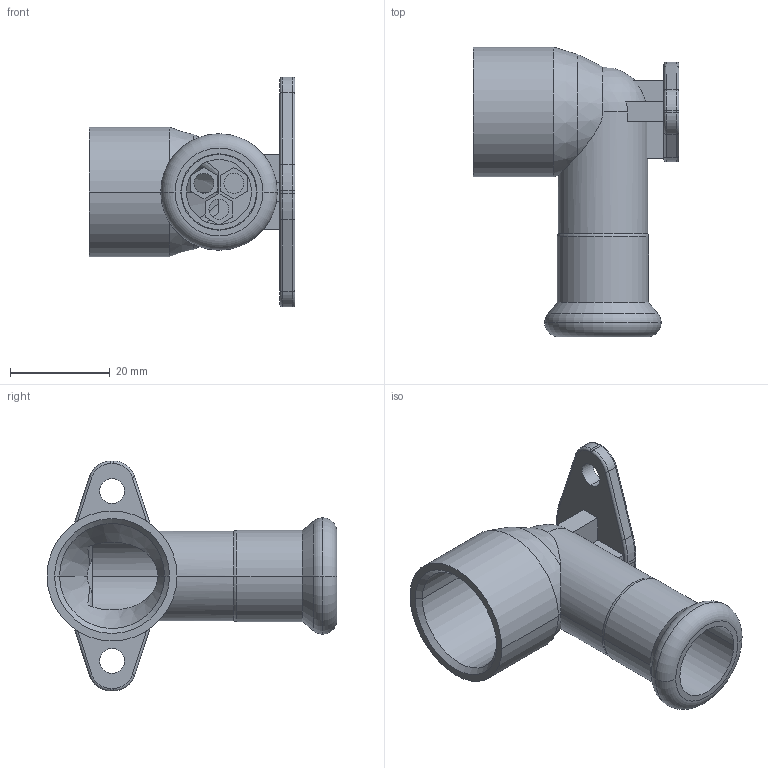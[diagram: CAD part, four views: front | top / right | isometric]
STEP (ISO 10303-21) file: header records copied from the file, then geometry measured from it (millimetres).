
FILE_DESCRIPTION(('OneSpaceDesigner STEP Export'),'2;1');
FILE_NAME('R2716 15xRp1-2.stp','2010-06-10T 9:49:53',(''),(''),'OneSpace Designer STEP processor for AP214 (Solid Model)','OneSpace Modeling 15.00A 14-Mar-2007 (C) CoCreate Software GmbH','');
FILE_SCHEMA(('AUTOMOTIVE_DESIGN { 1 0 10303 214 1 1 1 1 }'));
Length unit declared in the file: millimetre
Products named in the file (2): R2716_15xRp1-2
Assembly tree (1 placements, depth 2):
  R2716_15xRp1-2
    R2716_15xRp1-2
Bounding box: 41.2 x 58 x 46 mm (x, y, z)
Volume: 11281.8 mm3; surface area: 10654 mm2
Topology: 1 solids, 1 shells, 144 faces, 355 edges, 219 vertices
Faces by surface type: plane 56, cylinder 53, torus 22, cone 10, bspline 2, sphere 1
Entity records: 5659 total; most frequent: CARTESIAN_POINT 2338, ORIENTED_EDGE 708, DIRECTION 661, EDGE_CURVE 354, AXIS2_PLACEMENT_3D 240, VERTEX_POINT 219, VECTOR 181, LINE 181
